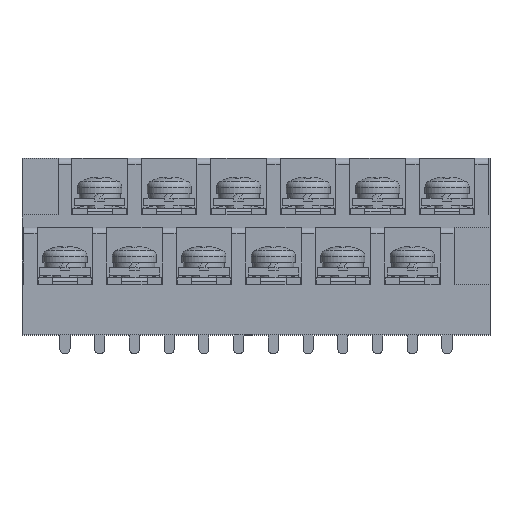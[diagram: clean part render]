
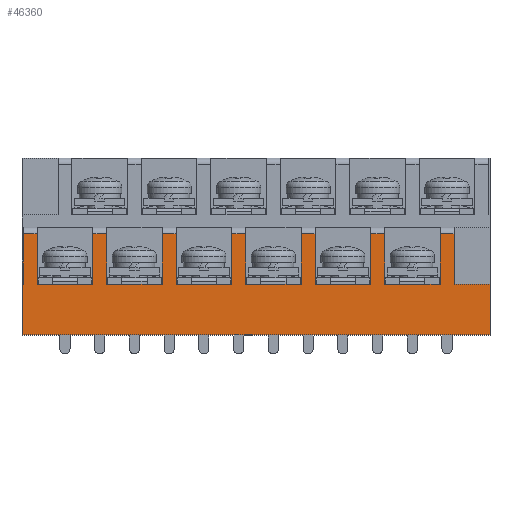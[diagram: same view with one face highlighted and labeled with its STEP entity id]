
A CAD part, top view. The second image highlights one B-rep face of the part: STEP entity #46360.
In plain terms, the highlighted planar face has unit normal (0, 0, 1).
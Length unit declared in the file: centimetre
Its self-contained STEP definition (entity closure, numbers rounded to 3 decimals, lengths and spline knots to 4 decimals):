
#1863=VECTOR('',#48538,1.);
#1919=VECTOR('',#48634,1.);
#1924=VECTOR('',#48646,1.);
#1926=VECTOR('',#48649,1.);
#1928=VECTOR('',#48652,1.);
#2330=VECTOR('',#49192,1.);
#2496=VECTOR('',#49547,1.);
#2660=VECTOR('',#49899,1.);
#2662=VECTOR('',#49905,1.);
#2664=VECTOR('',#49908,1.);
#2836=VECTOR('',#50273,1.);
#2998=VECTOR('',#50623,1.);
#3000=VECTOR('',#50629,1.);
#3002=VECTOR('',#50632,1.);
#3175=VECTOR('',#50998,1.);
#3337=VECTOR('',#51348,1.);
#3339=VECTOR('',#51354,1.);
#3360=VECTOR('',#51377,1.);
#3384=VECTOR('',#51414,1.);
#3387=VECTOR('',#51423,1.);
#3390=VECTOR('',#51427,1.);
#3545=VECTOR('',#51768,1.);
#3703=VECTOR('',#52119,1.);
#3706=VECTOR('',#52128,1.);
#3709=VECTOR('',#52132,1.);
#3864=VECTOR('',#52473,1.);
#4030=VECTOR('',#52833,1.);
#4031=VECTOR('',#52835,1.);
#4032=VECTOR('',#52836,1.);
#4033=VECTOR('',#52837,1.);
#4034=VECTOR('',#52838,1.);
#4035=VECTOR('',#52839,1.);
#7010=LINE('',#57287,#1863);
#7066=LINE('',#57420,#1919);
#7071=LINE('',#57435,#1924);
#7073=LINE('',#57438,#1926);
#7075=LINE('',#57443,#1928);
#7477=LINE('',#58945,#2330);
#7643=LINE('',#59433,#2496);
#7807=LINE('',#59920,#2660);
#7809=LINE('',#59926,#2662);
#7811=LINE('',#59931,#2664);
#7983=LINE('',#60435,#2836);
#8145=LINE('',#60917,#2998);
#8147=LINE('',#60923,#3000);
#8149=LINE('',#60928,#3002);
#8322=LINE('',#61434,#3175);
#8484=LINE('',#61916,#3337);
#8486=LINE('',#61922,#3339);
#8507=LINE('',#61964,#3360);
#8531=LINE('',#62013,#3384);
#8534=LINE('',#62023,#3387);
#8537=LINE('',#62028,#3390);
#8692=LINE('',#62494,#3545);
#8850=LINE('',#62969,#3703);
#8853=LINE('',#62979,#3706);
#8856=LINE('',#62984,#3709);
#9011=LINE('',#63450,#3864);
#9177=LINE('',#63940,#4030);
#9178=LINE('',#63942,#4031);
#9179=LINE('',#63943,#4032);
#9180=LINE('',#63944,#4033);
#9181=LINE('',#63946,#4034);
#9182=LINE('',#63948,#4035);
#12830=PLANE('',#75929);
#14448=VERTEX_POINT('',#57282);
#14450=VERTEX_POINT('',#57286);
#14494=VERTEX_POINT('',#57414);
#14497=VERTEX_POINT('',#57419);
#14500=VERTEX_POINT('',#57429);
#14503=VERTEX_POINT('',#57434);
#14504=VERTEX_POINT('',#57441);
#14847=VERTEX_POINT('',#58944);
#14848=VERTEX_POINT('',#58946);
#15000=VERTEX_POINT('',#59432);
#15155=VERTEX_POINT('',#59919);
#15157=VERTEX_POINT('',#59925);
#15158=VERTEX_POINT('',#59929);
#15317=VERTEX_POINT('',#60429);
#15320=VERTEX_POINT('',#60434);
#15472=VERTEX_POINT('',#60916);
#15474=VERTEX_POINT('',#60922);
#15475=VERTEX_POINT('',#60926);
#15635=VERTEX_POINT('',#61428);
#15638=VERTEX_POINT('',#61433);
#15790=VERTEX_POINT('',#61915);
#15792=VERTEX_POINT('',#61921);
#15811=VERTEX_POINT('',#61963);
#15828=VERTEX_POINT('',#62014);
#15830=VERTEX_POINT('',#62020);
#15832=VERTEX_POINT('',#62026);
#16123=VERTEX_POINT('',#62970);
#16125=VERTEX_POINT('',#62976);
#16127=VERTEX_POINT('',#62982);
#16423=VERTEX_POINT('',#63939);
#16424=VERTEX_POINT('',#63945);
#16425=VERTEX_POINT('',#63947);
#19248=EDGE_CURVE('',#14450,#14448,#7010,.T.);
#19316=EDGE_CURVE('',#14497,#14494,#7066,.T.);
#19323=EDGE_CURVE('',#14503,#14500,#7071,.T.);
#19325=EDGE_CURVE('',#14497,#14500,#7073,.T.);
#19327=EDGE_CURVE('',#14504,#14503,#7075,.T.);
#19836=EDGE_CURVE('',#14848,#14847,#7477,.T.);
#20070=EDGE_CURVE('',#15000,#14504,#7643,.T.);
#20303=EDGE_CURVE('',#15000,#15155,#7807,.T.);
#20306=EDGE_CURVE('',#15157,#15155,#7809,.T.);
#20308=EDGE_CURVE('',#15158,#15157,#7811,.T.);
#20549=EDGE_CURVE('',#15320,#15317,#7983,.T.);
#20780=EDGE_CURVE('',#15320,#15472,#8145,.T.);
#20783=EDGE_CURVE('',#15474,#15472,#8147,.T.);
#20785=EDGE_CURVE('',#15475,#15474,#8149,.T.);
#21027=EDGE_CURVE('',#15638,#15635,#8322,.T.);
#21258=EDGE_CURVE('',#15638,#15790,#8484,.T.);
#21261=EDGE_CURVE('',#15792,#15790,#8486,.T.);
#21282=EDGE_CURVE('',#14847,#15811,#8507,.T.);
#21308=EDGE_CURVE('',#15635,#15828,#8531,.T.);
#21313=EDGE_CURVE('',#15828,#15830,#8534,.T.);
#21316=EDGE_CURVE('',#15832,#15830,#8537,.T.);
#21539=EDGE_CURVE('',#15832,#15475,#8692,.T.);
#21766=EDGE_CURVE('',#15317,#16123,#8850,.T.);
#21771=EDGE_CURVE('',#16123,#16125,#8853,.T.);
#21774=EDGE_CURVE('',#16127,#16125,#8856,.T.);
#21997=EDGE_CURVE('',#16127,#15158,#9011,.T.);
#22232=EDGE_CURVE('',#14848,#16423,#9177,.T.);
#22233=EDGE_CURVE('',#15811,#14494,#9178,.T.);
#22234=EDGE_CURVE('',#14448,#15792,#9179,.T.);
#22235=EDGE_CURVE('',#14450,#16424,#9180,.T.);
#22236=EDGE_CURVE('',#16425,#16424,#9181,.T.);
#22237=EDGE_CURVE('',#16423,#16425,#9182,.T.);
#32445=ORIENTED_EDGE('',*,*,#21282,.T.);
#32446=ORIENTED_EDGE('',*,*,#22233,.T.);
#32447=ORIENTED_EDGE('',*,*,#19316,.F.);
#32448=ORIENTED_EDGE('',*,*,#19325,.T.);
#32449=ORIENTED_EDGE('',*,*,#19323,.F.);
#32450=ORIENTED_EDGE('',*,*,#19327,.F.);
#32451=ORIENTED_EDGE('',*,*,#20070,.F.);
#32452=ORIENTED_EDGE('',*,*,#20303,.T.);
#32453=ORIENTED_EDGE('',*,*,#20306,.F.);
#32454=ORIENTED_EDGE('',*,*,#20308,.F.);
#32455=ORIENTED_EDGE('',*,*,#21997,.F.);
#32456=ORIENTED_EDGE('',*,*,#21774,.T.);
#32457=ORIENTED_EDGE('',*,*,#21771,.F.);
#32458=ORIENTED_EDGE('',*,*,#21766,.F.);
#32459=ORIENTED_EDGE('',*,*,#20549,.F.);
#32460=ORIENTED_EDGE('',*,*,#20780,.T.);
#32461=ORIENTED_EDGE('',*,*,#20783,.F.);
#32462=ORIENTED_EDGE('',*,*,#20785,.F.);
#32463=ORIENTED_EDGE('',*,*,#21539,.F.);
#32464=ORIENTED_EDGE('',*,*,#21316,.T.);
#32465=ORIENTED_EDGE('',*,*,#21313,.F.);
#32466=ORIENTED_EDGE('',*,*,#21308,.F.);
#32467=ORIENTED_EDGE('',*,*,#21027,.F.);
#32468=ORIENTED_EDGE('',*,*,#21258,.T.);
#32469=ORIENTED_EDGE('',*,*,#21261,.F.);
#32470=ORIENTED_EDGE('',*,*,#22234,.F.);
#32471=ORIENTED_EDGE('',*,*,#19248,.F.);
#32472=ORIENTED_EDGE('',*,*,#22235,.T.);
#32473=ORIENTED_EDGE('',*,*,#22236,.F.);
#32474=ORIENTED_EDGE('',*,*,#22237,.F.);
#32475=ORIENTED_EDGE('',*,*,#22232,.F.);
#32476=ORIENTED_EDGE('',*,*,#19836,.T.);
#40824=EDGE_LOOP('',(#32445,#32446,#32447,#32448,#32449,#32450,#32451,#32452,
#32453,#32454,#32455,#32456,#32457,#32458,#32459,#32460,#32461,#32462,#32463,
#32464,#32465,#32466,#32467,#32468,#32469,#32470,#32471,#32472,#32473,#32474,
#32475,#32476));
#43671=FACE_BOUND('',#40824,.T.);
#46360=ADVANCED_FACE('',(#43671),#12830,.T.);
#48538=DIRECTION('',(1.,0.,0.));
#48634=DIRECTION('',(1.,0.,0.));
#48646=DIRECTION('',(1.,0.,0.));
#48649=DIRECTION('',(0.,1.,0.));
#48652=DIRECTION('',(0.,1.,0.));
#49192=DIRECTION('',(0.,-1.,0.));
#49547=DIRECTION('',(1.,0.,0.));
#49899=DIRECTION('',(0.,1.,0.));
#49905=DIRECTION('',(1.,0.,0.));
#49908=DIRECTION('',(0.,1.,0.));
#50273=DIRECTION('',(1.,0.,0.));
#50623=DIRECTION('',(0.,1.,0.));
#50629=DIRECTION('',(1.,0.,0.));
#50632=DIRECTION('',(0.,1.,0.));
#50998=DIRECTION('',(1.,0.,0.));
#51348=DIRECTION('',(0.,1.,0.));
#51354=DIRECTION('',(1.,0.,0.));
#51377=DIRECTION('',(1.,0.,0.));
#51414=DIRECTION('',(0.,1.,0.));
#51423=DIRECTION('',(1.,0.,0.));
#51427=DIRECTION('',(0.,1.,0.));
#51768=DIRECTION('',(1.,0.,0.));
#52119=DIRECTION('',(0.,1.,0.));
#52128=DIRECTION('',(1.,0.,0.));
#52132=DIRECTION('',(0.,1.,0.));
#52473=DIRECTION('',(1.,0.,0.));
#52833=DIRECTION('',(1.,0.,0.));
#52834=DIRECTION('',(0.,0.,1.));
#52835=DIRECTION('',(0.,1.,0.));
#52836=DIRECTION('',(0.,1.,0.));
#52837=DIRECTION('',(0.,1.,0.));
#52838=DIRECTION('',(1.,0.,0.));
#52839=DIRECTION('',(0.,1.,0.));
#57282=CARTESIAN_POINT('',(-0.55,0.8,2.35));
#57286=CARTESIAN_POINT('',(-1.43,0.8,2.35));
#57287=CARTESIAN_POINT('',(-1.43,0.8,2.35));
#57414=CARTESIAN_POINT('',(5.74,0.8,2.35));
#57419=CARTESIAN_POINT('',(5.17,0.8,2.35));
#57420=CARTESIAN_POINT('',(5.17,0.8,2.35));
#57429=CARTESIAN_POINT('',(5.17,1.6,2.35));
#57434=CARTESIAN_POINT('',(4.95,1.6,2.35));
#57435=CARTESIAN_POINT('',(4.95,1.6,2.35));
#57438=CARTESIAN_POINT('',(5.17,0.,2.35));
#57441=CARTESIAN_POINT('',(4.95,0.8,2.35));
#57443=CARTESIAN_POINT('',(4.95,0.,2.35));
#58944=CARTESIAN_POINT('',(-1.67,0.,2.35));
#58945=CARTESIAN_POINT('',(-1.67,0.8,2.35));
#58946=CARTESIAN_POINT('',(-1.67,0.8,2.35));
#59432=CARTESIAN_POINT('',(4.07,0.8,2.35));
#59433=CARTESIAN_POINT('',(4.07,0.8,2.35));
#59919=CARTESIAN_POINT('',(4.07,1.6,2.35));
#59920=CARTESIAN_POINT('',(4.07,0.,2.35));
#59925=CARTESIAN_POINT('',(3.85,1.6,2.35));
#59926=CARTESIAN_POINT('',(3.85,1.6,2.35));
#59929=CARTESIAN_POINT('',(3.85,0.8,2.35));
#59931=CARTESIAN_POINT('',(3.85,0.,2.35));
#60429=CARTESIAN_POINT('',(2.75,0.8,2.35));
#60434=CARTESIAN_POINT('',(1.87,0.8,2.35));
#60435=CARTESIAN_POINT('',(1.87,0.8,2.35));
#60916=CARTESIAN_POINT('',(1.87,1.6,2.35));
#60917=CARTESIAN_POINT('',(1.87,0.,2.35));
#60922=CARTESIAN_POINT('',(1.65,1.6,2.35));
#60923=CARTESIAN_POINT('',(1.65,1.6,2.35));
#60926=CARTESIAN_POINT('',(1.65,0.8,2.35));
#60928=CARTESIAN_POINT('',(1.65,0.,2.35));
#61428=CARTESIAN_POINT('',(0.55,0.8,2.35));
#61433=CARTESIAN_POINT('',(-0.33,0.8,2.35));
#61434=CARTESIAN_POINT('',(-0.33,0.8,2.35));
#61915=CARTESIAN_POINT('',(-0.33,1.6,2.35));
#61916=CARTESIAN_POINT('',(-0.33,0.,2.35));
#61921=CARTESIAN_POINT('',(-0.55,1.6,2.35));
#61922=CARTESIAN_POINT('',(-0.55,1.6,2.35));
#61963=CARTESIAN_POINT('',(5.74,0.,2.35));
#61964=CARTESIAN_POINT('',(-1.67,0.,2.35));
#62013=CARTESIAN_POINT('',(0.55,0.,2.35));
#62014=CARTESIAN_POINT('',(0.55,1.6,2.35));
#62020=CARTESIAN_POINT('',(0.77,1.6,2.35));
#62023=CARTESIAN_POINT('',(0.55,1.6,2.35));
#62026=CARTESIAN_POINT('',(0.77,0.8,2.35));
#62028=CARTESIAN_POINT('',(0.77,0.,2.35));
#62494=CARTESIAN_POINT('',(0.77,0.8,2.35));
#62969=CARTESIAN_POINT('',(2.75,0.,2.35));
#62970=CARTESIAN_POINT('',(2.75,1.6,2.35));
#62976=CARTESIAN_POINT('',(2.97,1.6,2.35));
#62979=CARTESIAN_POINT('',(2.75,1.6,2.35));
#62982=CARTESIAN_POINT('',(2.97,0.8,2.35));
#62984=CARTESIAN_POINT('',(2.97,0.,2.35));
#63450=CARTESIAN_POINT('',(2.97,0.8,2.35));
#63939=CARTESIAN_POINT('',(-1.65,0.8,2.35));
#63940=CARTESIAN_POINT('',(-1.67,0.8,2.35));
#63941=CARTESIAN_POINT('',(-1.67,0.4,2.35));
#63942=CARTESIAN_POINT('',(5.74,0.8,2.35));
#63943=CARTESIAN_POINT('',(-0.55,0.,2.35));
#63944=CARTESIAN_POINT('',(-1.43,0.,2.35));
#63945=CARTESIAN_POINT('',(-1.43,1.6,2.35));
#63946=CARTESIAN_POINT('',(-1.65,1.6,2.35));
#63947=CARTESIAN_POINT('',(-1.65,1.6,2.35));
#63948=CARTESIAN_POINT('',(-1.65,0.,2.35));
#75929=AXIS2_PLACEMENT_3D('',#63941,#52834,$);
